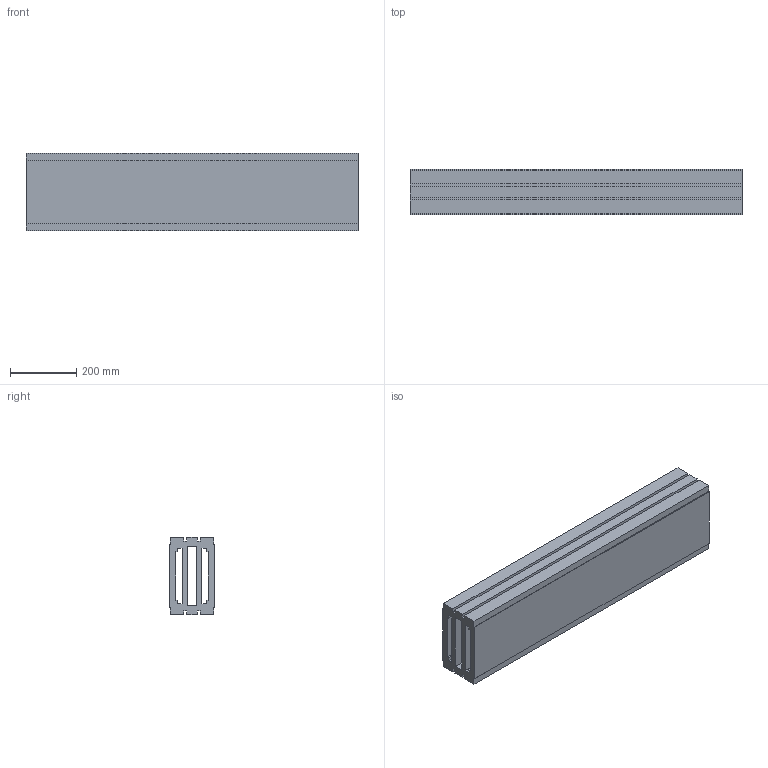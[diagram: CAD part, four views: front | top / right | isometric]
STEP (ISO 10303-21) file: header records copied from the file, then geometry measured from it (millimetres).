
FILE_DESCRIPTION (( 'STEP AP214' ), '1' );
FILE_NAME ('FS-230-MTC-150 02.150L01.230.N Baansectie recht 1000mm.STEP', '2017-12-21T10:07:55', ( '' ), ( '' ), 'SwSTEP 2.0', 'SolidWorks 2017', '' );
FILE_SCHEMA (( 'AUTOMOTIVE_DESIGN' ));
Length unit declared in the file: millimetre
Products named in the file (1): FS-230-MTC-150 02.150L01.230.N Baansectie recht 1000mm
Bounding box: 1000 x 136 x 232.5 mm (x, y, z)
Volume: 19869520 mm3; surface area: 2027739 mm2
Topology: 1 solids, 1 shells, 50 faces, 144 edges, 96 vertices
Faces by surface type: plane 50
Entity records: 1654 total; most frequent: CARTESIAN_POINT 291, ORIENTED_EDGE 288, DIRECTION 246, LINE 144, EDGE_CURVE 144, VECTOR 144, VERTEX_POINT 96, EDGE_LOOP 56
